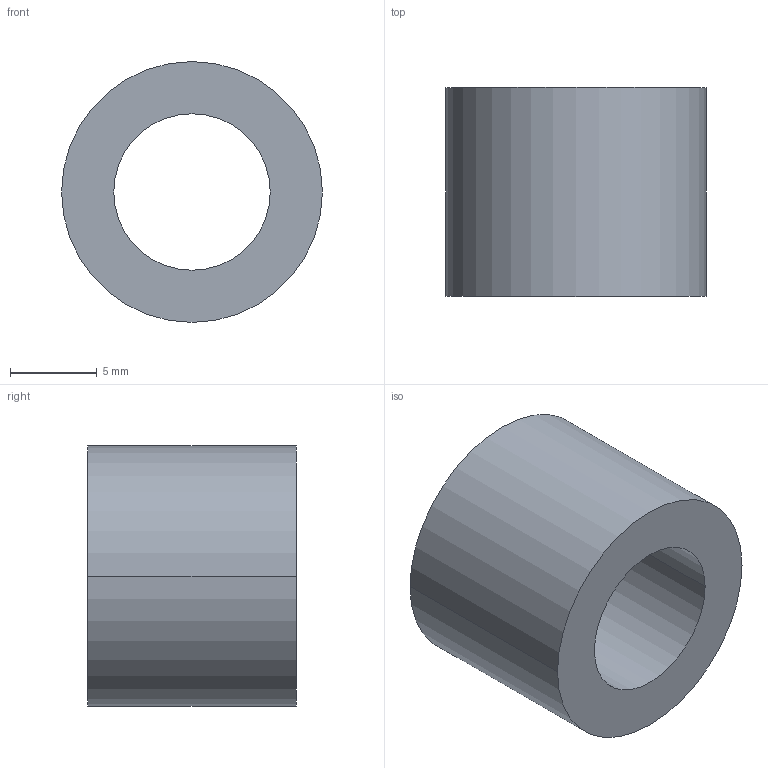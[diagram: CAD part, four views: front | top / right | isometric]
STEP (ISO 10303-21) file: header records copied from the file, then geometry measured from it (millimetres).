
FILE_DESCRIPTION (( 'STEP AP203' ), '1' );
FILE_NAME ('30800.WPP15E9.0.step', '2019-01-23T22:31:36', ( '' ), ( '' ), 'SwSTEP 2.0', 'SolidWorks 2017', '' );
FILE_SCHEMA (( 'CONFIG_CONTROL_DESIGN' ));
Length unit declared in the file: millimetre
Products named in the file (1): 30800.WPP15E9.0
Bounding box: 15 x 12 x 15 mm (x, y, z)
Volume: 1330.5 mm3; surface area: 1108.5 mm2
Topology: 1 solids, 1 shells, 8 faces, 16 edges, 10 vertices
Faces by surface type: cylinder 4, torus 2, plane 2
Entity records: 297 total; most frequent: DIRECTION 46, CARTESIAN_POINT 35, ORIENTED_EDGE 32, AXIS2_PLACEMENT_3D 21, EDGE_CURVE 16, CIRCLE 12, VERTEX_POINT 10, EDGE_LOOP 10
